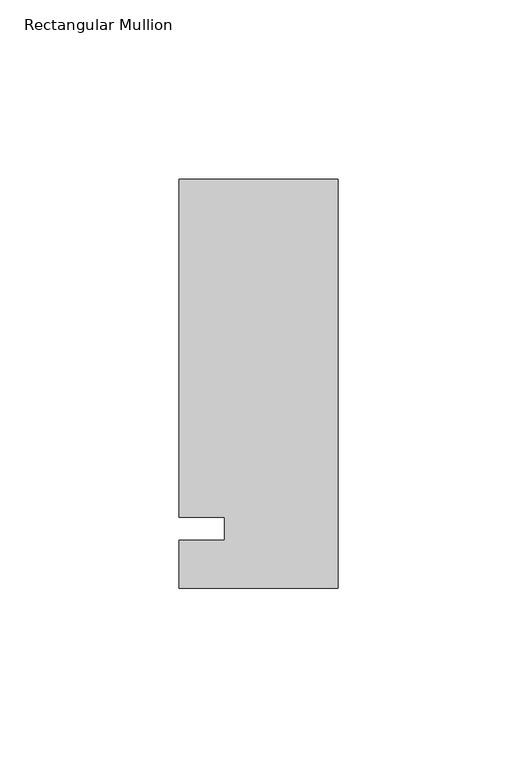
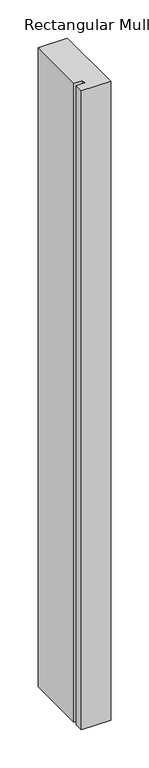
"""IFC4 building model written with IfcOpenShell, lengths in millimetres: member geometry, Rectangular Mullion : Kawneer-TRIFAB_VG_450_BACK_SB_Head."""

from ifc_helpers import new_model, si_unit, frame, origin, place, context, project, spatial, polyline, outline, extrude, source, transform, mapped, element, save


def rectangular_mullion_4aa090f8(model_context):
    return source(origin(), model_context, "Body", "SweptSolid", [
        extrude(outline(polyline([(-44.45, -16.66875), (-44.45, -3.175), (-31.7482296, -3.175), (-31.7482296, 3.175), (-44.45, 3.175), (-44.45, 97.63125), (0.0, 97.63125), (0.0, -16.66875), (-44.45, -16.66875)])), frame((0.0, 0.0, -1026.3344133), z_axis=(0.0, 0.0, 1.0), x_axis=(1.0, 0.0, 0.0)), (0.0, 0.0, 1.0), 1026.3344133),
    ])


if __name__ == "__main__":
    model = new_model("IFC4")
    model_context = context("Model", 3, world=origin())
    ifc_project = project(units=[si_unit("LENGTHUNIT", "METRE", prefix="MILLI")], contexts=[model_context])
    site = spatial("IfcSite", under=ifc_project)
    building = spatial("IfcBuilding", under=site)
    placement = place(None, origin())
    rectangular_mullion_shape = rectangular_mullion_4aa090f8(model_context)
    element("IfcMember", 1, ObjectType="Rectangular Mullion : Kawneer-TRIFAB_VG_450_BACK_SB_Head", at=placement, inside=building, context=model_context, shape_type="MappedRepresentation", body=[
        mapped(rectangular_mullion_shape, transform((0.0, 0.0, 0.0), x_axis=(1.0, 0.0, 0.0), y_axis=(0.0, 1.0, 0.0), z_axis=(0.0, 0.0, 1.0))),
    ])
    save(model, "model.ifc")
